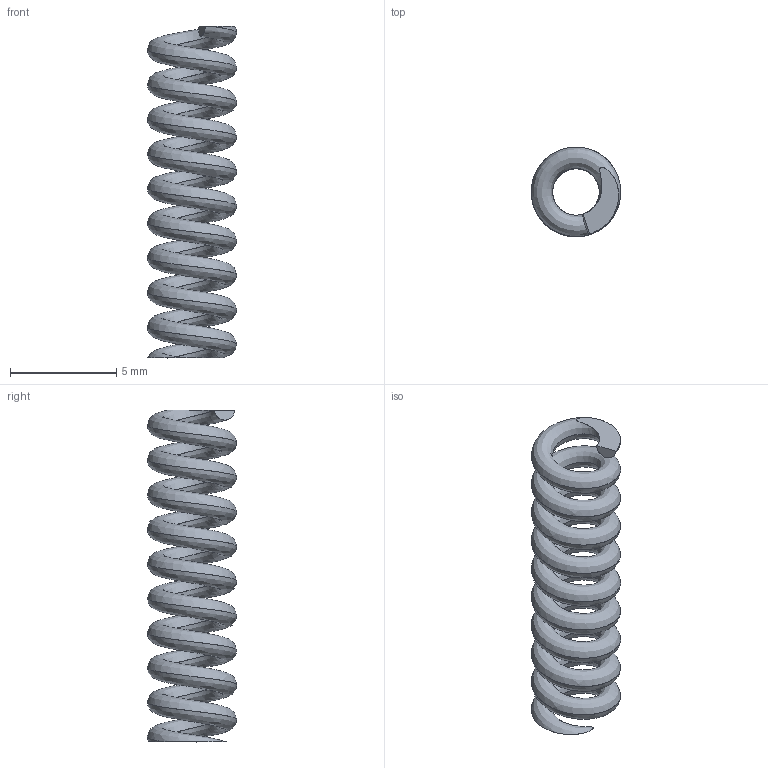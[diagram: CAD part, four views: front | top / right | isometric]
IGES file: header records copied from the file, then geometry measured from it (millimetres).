
Start section: SolidWorks IGES FILE using analytic representation for surfaces
Global section: file name: C:\Documents and Settings\lecoutey\Bureau\GP 2013\1086.230.10.IGS; native system: SolidWorks 2004 by SolidWorks Corporation; preprocessor: Version 5.3; author: lecoutey; date: 050329.161950; units: millimetre
Bounding box: 4.2 x 4.2 x 15.6 mm (x, y, z)
Surface area: 311.6 mm2 (no closed solid volume)
Topology: 0 solids, 0 shells, 5 faces, 141 edges, 141 vertices
Faces by surface type: bspline 5
